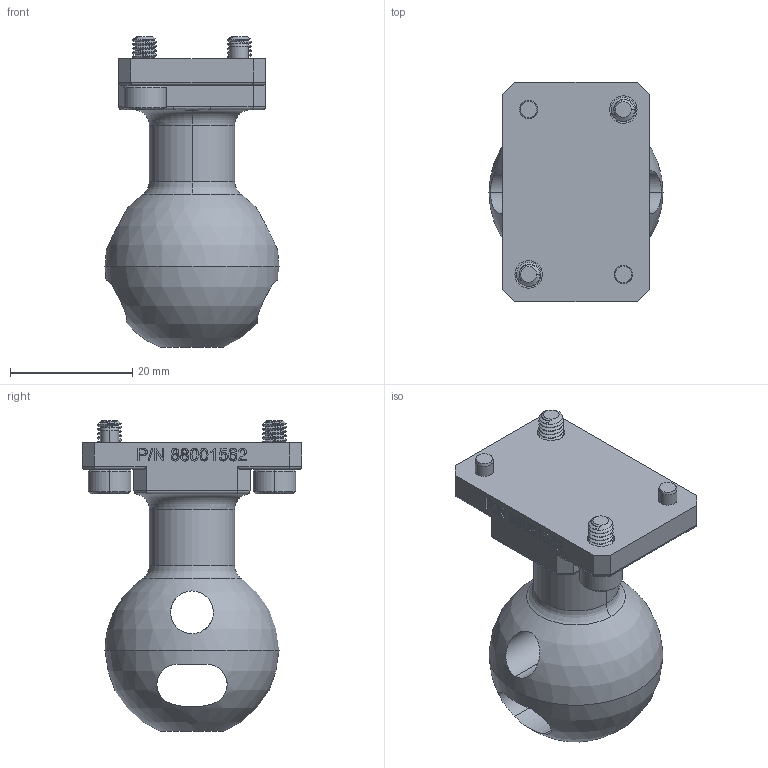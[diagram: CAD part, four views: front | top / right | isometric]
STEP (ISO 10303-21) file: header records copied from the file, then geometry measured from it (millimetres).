
FILE_DESCRIPTION (( 'STEP AP203' ), '1' );
FILE_NAME ('88001562_s.STEP', '2023-09-19T16:18:16', ( '' ), ( '' ), 'SwSTEP 2.0', 'SolidWorks 2022', '' );
FILE_SCHEMA (( 'CONFIG_CONTROL_DESIGN' ));
Length unit declared in the file: millimetre
Products named in the file (1): 88001562_s
Bounding box: 28.5 x 36 x 50.9 mm (x, y, z)
Volume: 17227 mm3; surface area: 7275.1 mm2
Topology: 5 solids, 5 shells, 618 faces, 1639 edges, 1071 vertices
Faces by surface type: bspline 219, plane 212, cylinder 147, cone 34, torus 4, sphere 2
Entity records: 27592 total; most frequent: CARTESIAN_POINT 14301, ORIENTED_EDGE 3266, DIRECTION 1879, EDGE_CURVE 1633, VERTEX_POINT 1068, LINE 843, VECTOR 843, EDGE_LOOP 669
